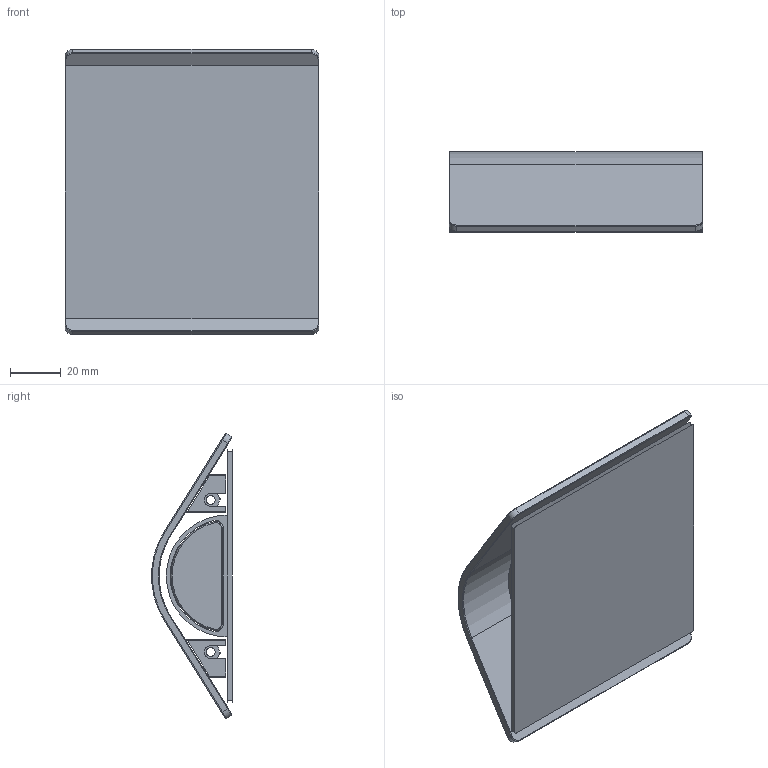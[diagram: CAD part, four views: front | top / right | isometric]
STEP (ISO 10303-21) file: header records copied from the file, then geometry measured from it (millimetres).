
FILE_DESCRIPTION((''),'2;1');
FILE_NAME('SECONDA-TIPOLOGIA_SW0001','2025-07-24T14:11:03',('Piccioli'),(''),'CREO PARAMETRIC BY PTC INC, 2025010','CREO PARAMETRIC BY PTC INC, 2025010','');
FILE_SCHEMA(('CONFIG_CONTROL_DESIGN'));
Length unit declared in the file: millimetre
Products named in the file (1): SECONDA-TIPOLOGIA_SW0001
Bounding box: 100 x 31.73 x 112.45 mm (x, y, z)
Surface area: 53345 mm2 (no closed solid volume)
Topology: 0 solids, 15 shells, 71 faces, 262 edges, 204 vertices
Faces by surface type: plane 30, cylinder 23, torus 12, cone 6
Entity records: 3150 total; most frequent: CARTESIAN_POINT 907, DIRECTION 492, ORIENTED_EDGE 368, EDGE_CURVE 262, VERTEX_POINT 204, AXIS2_PLACEMENT_3D 189, CIRCLE 118, VECTOR 114
